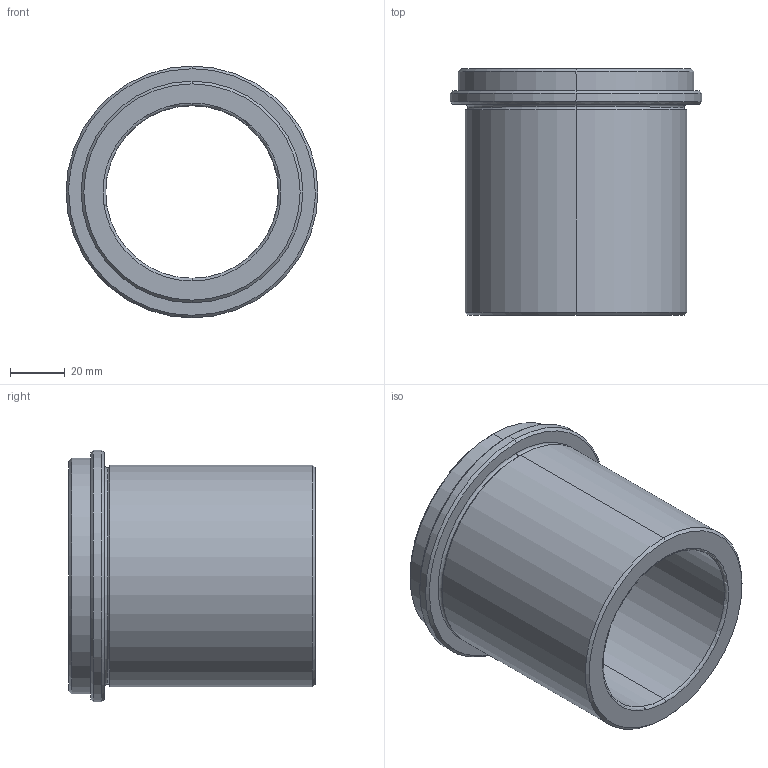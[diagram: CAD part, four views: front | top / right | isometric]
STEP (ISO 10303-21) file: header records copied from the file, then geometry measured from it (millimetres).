
FILE_DESCRIPTION(('CATIA V5 STEP Exchange'),'2;1');
FILE_NAME('C:\Users\Utente\Desktop\IO LAVORO\3D X SITO CF\X SITO\CF 439\CF 439 63x90.stp','2020-12-27T20:47:46+00:00',('none'),('none'),'CATIA Version 5 Release 20 GA (IN-10)','CATIA V5 STEP AP203','none');
FILE_SCHEMA(('CONFIG_CONTROL_DESIGN'));
Length unit declared in the file: millimetre
Products named in the file (1): CF 439 63x90
Bounding box: 92 x 90 x 92 mm (x, y, z)
Volume: 194909 mm3; surface area: 47532 mm2
Topology: 1 solids, 1 shells, 28 faces, 86 edges, 62 vertices
Faces by surface type: cone 8, cylinder 8, torus 8, plane 4
Entity records: 1104 total; most frequent: CARTESIAN_POINT 289, ORIENTED_EDGE 172, DIRECTION 134, AXIS2_PLACEMENT_3D 91, EDGE_CURVE 86, CIRCLE 62, VERTEX_POINT 62, EDGE_LOOP 32
